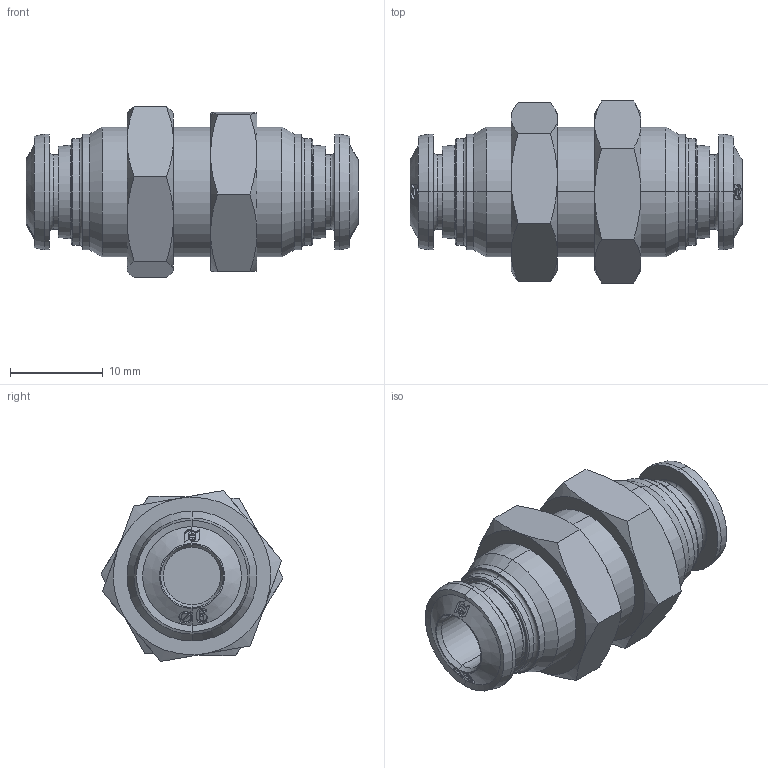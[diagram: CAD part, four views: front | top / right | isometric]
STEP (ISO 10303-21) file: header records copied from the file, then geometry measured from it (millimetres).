
FILE_DESCRIPTION (( 'STEP AP214' ), '1' );
FILE_NAME ('5005000002.step', '2012-10-01T16:43:05', ( '' ), ( '' ), 'SwSTEP 2.0', 'SolidWorks 2012', '' );
FILE_SCHEMA (( 'AUTOMOTIVE_DESIGN' ));
Length unit declared in the file: millimetre
Products named in the file (1): 5005000002
Bounding box: 35.8 x 19.62 x 18.43 mm (x, y, z)
Volume: 5029.4 mm3; surface area: 3081.5 mm2
Topology: 1 solids, 3 shells, 280 faces, 658 edges, 412 vertices
Faces by surface type: bspline 94, cone 78, cylinder 50, plane 38, torus 20
Entity records: 17200 total; most frequent: CARTESIAN_POINT 8497, ORIENTED_EDGE 1316, DIRECTION 866, EDGE_CURVE 658, VERTEX_POINT 412, AXIS2_PLACEMENT_3D 379, B_SPLINE_CURVE_WITH_KNOTS 358, EDGE_LOOP 312
